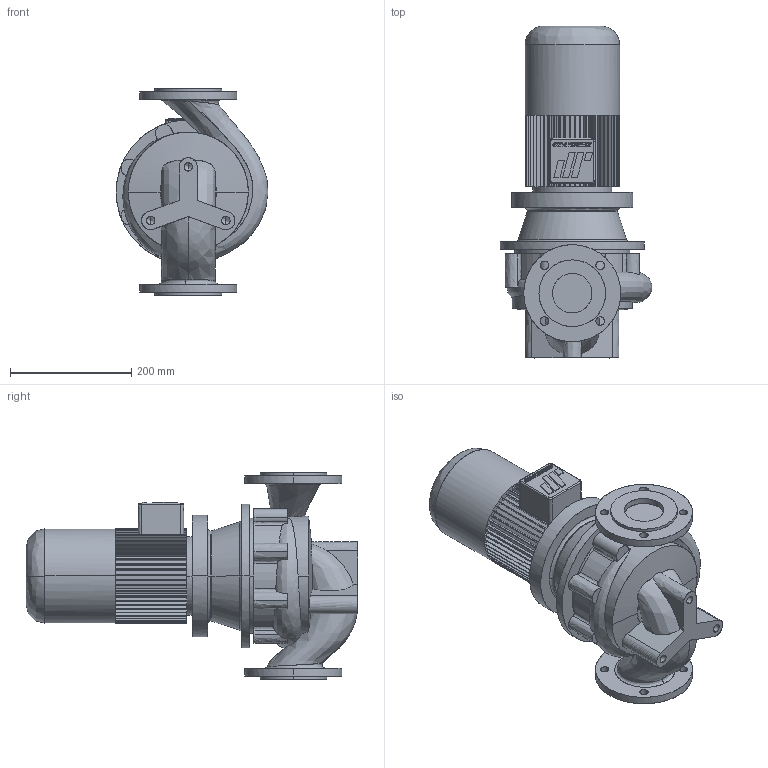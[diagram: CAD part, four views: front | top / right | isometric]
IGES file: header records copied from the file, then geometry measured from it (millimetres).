
Start section: CombiLine
Global section: file name: CLB_65-160_IEC80.igs; native system:  By UGS Corp.; preprocessor: XPlus GENERIC/IGES 3.0; author: Stageplaats; organization: Johnson Pump Water B.V.; date: 20070713.132539; units: millimetre
Bounding box: 250.23 x 547.5 x 340 mm (x, y, z)
Surface area: 653501.3 mm2 (no closed solid volume)
Topology: 0 solids, 0 shells, 539 faces, 3280 edges, 3274 vertices
Faces by surface type: bspline 539
